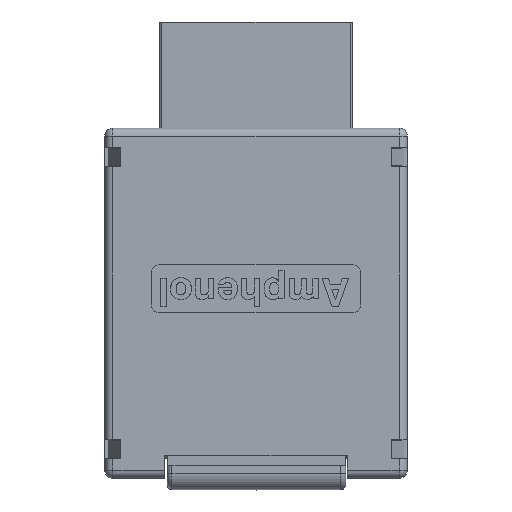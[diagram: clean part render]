
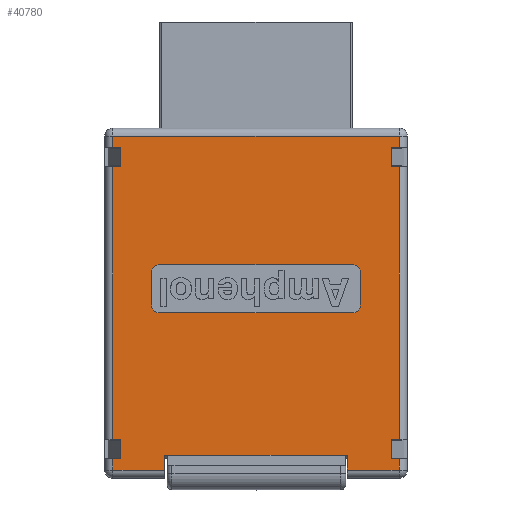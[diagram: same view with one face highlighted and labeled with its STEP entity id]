
A CAD part, top view. The second image highlights one B-rep face of the part: STEP entity #40780.
In plain terms, the highlighted planar face has unit normal (0, 0, 1) as drawn and (0, 0, -1) by its records, which use the part's own axes.
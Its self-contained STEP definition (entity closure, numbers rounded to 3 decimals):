
#35930=DIRECTION('',(-1.,0.,0.));
#35931=VECTOR('',#35930,0.93);
#35932=CARTESIAN_POINT('',(-10.59,5.685,-0.21));
#35933=LINE('',#35932,#35931);
#35959=DIRECTION('',(0.,-1.,0.));
#35960=VECTOR('',#35959,11.38);
#35961=CARTESIAN_POINT('',(-10.59,5.685,-0.21));
#35962=LINE('',#35961,#35960);
#35963=DIRECTION('',(1.,0.,0.));
#35964=VECTOR('',#35963,1.2);
#35965=CARTESIAN_POINT('',(-10.82,-8.4,-0.21));
#35966=LINE('',#35965,#35964);
#35967=DIRECTION('',(0.,-1.,0.));
#35968=VECTOR('',#35967,0.5);
#35969=CARTESIAN_POINT('',(-9.62,-8.4,-0.21));
#35970=LINE('',#35969,#35968);
#35971=DIRECTION('',(1.,0.,0.));
#35972=VECTOR('',#35971,1.2);
#35973=CARTESIAN_POINT('',(7.35,-8.4,-0.21));
#35974=LINE('',#35973,#35972);
#35975=DIRECTION('',(0.,-1.,0.));
#35976=VECTOR('',#35975,0.5);
#35977=CARTESIAN_POINT('',(8.55,-8.4,-0.21));
#35978=LINE('',#35977,#35976);
#35979=DIRECTION('',(-1.,0.,0.));
#35980=VECTOR('',#35979,1.2);
#35981=CARTESIAN_POINT('',(8.55,8.4,-0.21));
#35982=LINE('',#35981,#35980);
#35983=DIRECTION('',(0.,1.,0.));
#35984=VECTOR('',#35983,0.5);
#35985=CARTESIAN_POINT('',(7.35,8.4,-0.21));
#35986=LINE('',#35985,#35984);
#35987=DIRECTION('',(-1.,0.,0.));
#35988=VECTOR('',#35987,1.2);
#35989=CARTESIAN_POINT('',(-9.62,8.4,-0.21));
#35990=LINE('',#35989,#35988);
#35991=DIRECTION('',(0.,1.,0.));
#35992=VECTOR('',#35991,0.5);
#35993=CARTESIAN_POINT('',(-10.82,8.4,-0.21));
#35994=LINE('',#35993,#35992);
#35995=CARTESIAN_POINT('',(0.75,6.,-0.21));
#35996=DIRECTION('',(0.,0.,-1.));
#35997=DIRECTION('',(0.,1.,0.));
#35998=AXIS2_PLACEMENT_3D('',#35995,#35996,#35997);
#36000=CARTESIAN_POINT('',(0.75,-6.,-0.21));
#36001=DIRECTION('',(0.,0.,-1.));
#36002=DIRECTION('',(1.,0.,0.));
#36003=AXIS2_PLACEMENT_3D('',#36000,#36001,#36002);
#36005=CARTESIAN_POINT('',(-1.25,-6.,-0.21));
#36006=DIRECTION('',(0.,0.,-1.));
#36007=DIRECTION('',(0.,-1.,0.));
#36008=AXIS2_PLACEMENT_3D('',#36005,#36006,#36007);
#36010=CARTESIAN_POINT('',(-1.25,6.,-0.21));
#36011=DIRECTION('',(0.,0.,-1.));
#36012=DIRECTION('',(-1.,0.,0.));
#36013=AXIS2_PLACEMENT_3D('',#36010,#36011,#36012);
#36019=DIRECTION('',(0.,1.,0.));
#36020=VECTOR('',#36019,3.215);
#36021=CARTESIAN_POINT('',(-11.52,5.685,-0.21));
#36022=LINE('',#36021,#36020);
#36195=DIRECTION('',(0.,1.,0.));
#36196=VECTOR('',#36195,0.5);
#36197=CARTESIAN_POINT('',(-9.62,8.4,-0.21));
#36198=LINE('',#36197,#36196);
#36249=DIRECTION('',(1.,0.,0.));
#36250=VECTOR('',#36249,0.7);
#36251=CARTESIAN_POINT('',(-11.52,8.9,-0.21));
#36252=LINE('',#36251,#36250);
#36268=DIRECTION('',(1.,0.,0.));
#36269=VECTOR('',#36268,16.97);
#36270=CARTESIAN_POINT('',(-9.62,8.9,-0.21));
#36271=LINE('',#36270,#36269);
#36309=DIRECTION('',(0.,1.,0.));
#36310=VECTOR('',#36309,0.5);
#36311=CARTESIAN_POINT('',(8.55,8.4,-0.21));
#36312=LINE('',#36311,#36310);
#36322=DIRECTION('',(1.,0.,0.));
#36323=VECTOR('',#36322,0.7);
#36324=CARTESIAN_POINT('',(8.55,8.9,-0.21));
#36325=LINE('',#36324,#36323);
#36345=DIRECTION('',(0.,-1.,0.));
#36346=VECTOR('',#36345,17.8);
#36347=CARTESIAN_POINT('',(9.25,8.9,-0.21));
#36348=LINE('',#36347,#36346);
#36372=DIRECTION('',(-1.,0.,0.));
#36373=VECTOR('',#36372,0.7);
#36374=CARTESIAN_POINT('',(9.25,-8.9,-0.21));
#36375=LINE('',#36374,#36373);
#36465=DIRECTION('',(0.,1.,0.));
#36466=VECTOR('',#36465,3.205);
#36467=CARTESIAN_POINT('',(-11.52,-8.9,-0.21));
#36468=LINE('',#36467,#36466);
#36498=DIRECTION('',(1.,0.,0.));
#36499=VECTOR('',#36498,0.93);
#36500=CARTESIAN_POINT('',(-11.52,-5.695,-0.21));
#36501=LINE('',#36500,#36499);
#37025=DIRECTION('',(-1.,0.,0.));
#37026=VECTOR('',#37025,0.7);
#37027=CARTESIAN_POINT('',(-10.82,-8.9,-0.21));
#37028=LINE('',#37027,#37026);
#37041=DIRECTION('',(0.,-1.,0.));
#37042=VECTOR('',#37041,0.5);
#37043=CARTESIAN_POINT('',(-10.82,-8.4,-0.21));
#37044=LINE('',#37043,#37042);
#37295=DIRECTION('',(0.,-1.,0.));
#37296=VECTOR('',#37295,0.5);
#37297=CARTESIAN_POINT('',(7.35,-8.4,-0.21));
#37298=LINE('',#37297,#37296);
#37304=DIRECTION('',(-1.,0.,0.));
#37305=VECTOR('',#37304,16.97);
#37306=CARTESIAN_POINT('',(7.35,-8.9,-0.21));
#37307=LINE('',#37306,#37305);
#37453=DIRECTION('',(-1.,0.,0.));
#37454=VECTOR('',#37453,2.);
#37455=CARTESIAN_POINT('',(0.75,6.5,-0.21));
#37456=LINE('',#37455,#37454);
#37794=DIRECTION('',(0.,-1.,0.));
#37795=VECTOR('',#37794,12.);
#37796=CARTESIAN_POINT('',(-1.75,6.,-0.21));
#37797=LINE('',#37796,#37795);
#37806=DIRECTION('',(1.,0.,0.));
#37807=VECTOR('',#37806,2.);
#37808=CARTESIAN_POINT('',(-1.25,-6.5,-0.21));
#37809=LINE('',#37808,#37807);
#37818=DIRECTION('',(0.,1.,0.));
#37819=VECTOR('',#37818,12.);
#37820=CARTESIAN_POINT('',(1.25,-6.,-0.21));
#37821=LINE('',#37820,#37819);
#39530=CARTESIAN_POINT('',(-10.59,5.685,-0.21));
#39531=VERTEX_POINT('',#39530);
#39532=CARTESIAN_POINT('',(-10.59,-5.695,-0.21));
#39533=VERTEX_POINT('',#39532);
#39534=CARTESIAN_POINT('',(-11.52,5.685,-0.21));
#39535=VERTEX_POINT('',#39534);
#39538=CARTESIAN_POINT('',(-11.52,8.9,-0.21));
#39539=VERTEX_POINT('',#39538);
#39540=CARTESIAN_POINT('',(-11.52,-5.695,-0.21));
#39541=VERTEX_POINT('',#39540);
#39542=CARTESIAN_POINT('',(-11.52,-8.9,-0.21));
#39543=VERTEX_POINT('',#39542);
#39544=CARTESIAN_POINT('',(-10.82,-8.9,-0.21));
#39545=VERTEX_POINT('',#39544);
#39546=CARTESIAN_POINT('',(-10.82,-8.4,-0.21));
#39547=VERTEX_POINT('',#39546);
#39548=CARTESIAN_POINT('',(-9.62,-8.4,-0.21));
#39549=VERTEX_POINT('',#39548);
#39550=CARTESIAN_POINT('',(-9.62,-8.9,-0.21));
#39551=VERTEX_POINT('',#39550);
#39552=CARTESIAN_POINT('',(7.35,-8.9,-0.21));
#39553=VERTEX_POINT('',#39552);
#39554=CARTESIAN_POINT('',(7.35,-8.4,-0.21));
#39555=VERTEX_POINT('',#39554);
#39556=CARTESIAN_POINT('',(8.55,-8.4,-0.21));
#39557=VERTEX_POINT('',#39556);
#39558=CARTESIAN_POINT('',(8.55,-8.9,-0.21));
#39559=VERTEX_POINT('',#39558);
#39560=CARTESIAN_POINT('',(9.25,-8.9,-0.21));
#39561=VERTEX_POINT('',#39560);
#39562=CARTESIAN_POINT('',(9.25,8.9,-0.21));
#39563=VERTEX_POINT('',#39562);
#39564=CARTESIAN_POINT('',(8.55,8.9,-0.21));
#39565=VERTEX_POINT('',#39564);
#39566=CARTESIAN_POINT('',(8.55,8.4,-0.21));
#39567=VERTEX_POINT('',#39566);
#39568=CARTESIAN_POINT('',(7.35,8.4,-0.21));
#39569=VERTEX_POINT('',#39568);
#39570=CARTESIAN_POINT('',(7.35,8.9,-0.21));
#39571=VERTEX_POINT('',#39570);
#39572=CARTESIAN_POINT('',(-9.62,8.9,-0.21));
#39573=VERTEX_POINT('',#39572);
#39574=CARTESIAN_POINT('',(-9.62,8.4,-0.21));
#39575=VERTEX_POINT('',#39574);
#39576=CARTESIAN_POINT('',(-10.82,8.4,-0.21));
#39577=VERTEX_POINT('',#39576);
#39578=CARTESIAN_POINT('',(-10.82,8.9,-0.21));
#39579=VERTEX_POINT('',#39578);
#39580=CARTESIAN_POINT('',(0.75,6.5,-0.21));
#39581=CARTESIAN_POINT('',(-1.25,6.5,-0.21));
#39582=VERTEX_POINT('',#39580);
#39583=VERTEX_POINT('',#39581);
#39584=CARTESIAN_POINT('',(1.25,6.,-0.21));
#39585=VERTEX_POINT('',#39584);
#39586=CARTESIAN_POINT('',(1.25,-6.,-0.21));
#39587=VERTEX_POINT('',#39586);
#39588=CARTESIAN_POINT('',(0.75,-6.5,-0.21));
#39589=VERTEX_POINT('',#39588);
#39590=CARTESIAN_POINT('',(-1.25,-6.5,-0.21));
#39591=VERTEX_POINT('',#39590);
#39592=CARTESIAN_POINT('',(-1.75,-6.,-0.21));
#39593=VERTEX_POINT('',#39592);
#39594=CARTESIAN_POINT('',(-1.75,6.,-0.21));
#39595=VERTEX_POINT('',#39594);
#40709=CARTESIAN_POINT('',(0.,8.4,-0.21));
#40710=DIRECTION('',(0.,0.,-1.));
#40711=DIRECTION('',(0.,-1.,0.));
#40712=AXIS2_PLACEMENT_3D('',#40709,#40710,#40711);
#40713=PLANE('',#40712);
#40715=ORIENTED_EDGE('',*,*,#40714,.F.);
#40716=ORIENTED_EDGE('',*,*,#40696,.F.);
#40717=ORIENTED_EDGE('',*,*,#40685,.T.);
#40719=ORIENTED_EDGE('',*,*,#40718,.F.);
#40721=ORIENTED_EDGE('',*,*,#40720,.F.);
#40723=ORIENTED_EDGE('',*,*,#40722,.F.);
#40725=ORIENTED_EDGE('',*,*,#40724,.F.);
#40727=ORIENTED_EDGE('',*,*,#40726,.T.);
#40729=ORIENTED_EDGE('',*,*,#40728,.T.);
#40731=ORIENTED_EDGE('',*,*,#40730,.F.);
#40733=ORIENTED_EDGE('',*,*,#40732,.F.);
#40735=ORIENTED_EDGE('',*,*,#40734,.T.);
#40737=ORIENTED_EDGE('',*,*,#40736,.T.);
#40739=ORIENTED_EDGE('',*,*,#40738,.F.);
#40741=ORIENTED_EDGE('',*,*,#40740,.F.);
#40743=ORIENTED_EDGE('',*,*,#40742,.F.);
#40745=ORIENTED_EDGE('',*,*,#40744,.F.);
#40747=ORIENTED_EDGE('',*,*,#40746,.T.);
#40749=ORIENTED_EDGE('',*,*,#40748,.T.);
#40751=ORIENTED_EDGE('',*,*,#40750,.F.);
#40753=ORIENTED_EDGE('',*,*,#40752,.F.);
#40755=ORIENTED_EDGE('',*,*,#40754,.T.);
#40757=ORIENTED_EDGE('',*,*,#40756,.T.);
#40759=ORIENTED_EDGE('',*,*,#40758,.F.);
#40760=EDGE_LOOP('',(#40715,#40716,#40717,#40719,#40721,#40723,#40725,#40727,
#40729,#40731,#40733,#40735,#40737,#40739,#40741,#40743,#40745,#40747,#40749,
#40751,#40753,#40755,#40757,#40759));
#40761=FACE_OUTER_BOUND('',#40760,.F.);
#40763=ORIENTED_EDGE('',*,*,#40762,.F.);
#40765=ORIENTED_EDGE('',*,*,#40764,.T.);
#40767=ORIENTED_EDGE('',*,*,#40766,.F.);
#40769=ORIENTED_EDGE('',*,*,#40768,.T.);
#40771=ORIENTED_EDGE('',*,*,#40770,.F.);
#40773=ORIENTED_EDGE('',*,*,#40772,.T.);
#40775=ORIENTED_EDGE('',*,*,#40774,.F.);
#40777=ORIENTED_EDGE('',*,*,#40776,.T.);
#40778=EDGE_LOOP('',(#40763,#40765,#40767,#40769,#40771,#40773,#40775,#40777));
#40779=FACE_BOUND('',#40778,.F.);
#40780=ADVANCED_FACE('',(#40761,#40779),#40713,.T.);
#35999=CIRCLE('',#35998,0.5);
#36004=CIRCLE('',#36003,0.5);
#36009=CIRCLE('',#36008,0.5);
#36014=CIRCLE('',#36013,0.5);
#40685=EDGE_CURVE('',#39531,#39533,#35962,.T.);
#40696=EDGE_CURVE('',#39531,#39535,#35933,.T.);
#40714=EDGE_CURVE('',#39535,#39539,#36022,.T.);
#40718=EDGE_CURVE('',#39541,#39533,#36501,.T.);
#40720=EDGE_CURVE('',#39543,#39541,#36468,.T.);
#40722=EDGE_CURVE('',#39545,#39543,#37028,.T.);
#40724=EDGE_CURVE('',#39547,#39545,#37044,.T.);
#40726=EDGE_CURVE('',#39547,#39549,#35966,.T.);
#40728=EDGE_CURVE('',#39549,#39551,#35970,.T.);
#40730=EDGE_CURVE('',#39553,#39551,#37307,.T.);
#40732=EDGE_CURVE('',#39555,#39553,#37298,.T.);
#40734=EDGE_CURVE('',#39555,#39557,#35974,.T.);
#40736=EDGE_CURVE('',#39557,#39559,#35978,.T.);
#40738=EDGE_CURVE('',#39561,#39559,#36375,.T.);
#40740=EDGE_CURVE('',#39563,#39561,#36348,.T.);
#40742=EDGE_CURVE('',#39565,#39563,#36325,.T.);
#40744=EDGE_CURVE('',#39567,#39565,#36312,.T.);
#40746=EDGE_CURVE('',#39567,#39569,#35982,.T.);
#40748=EDGE_CURVE('',#39569,#39571,#35986,.T.);
#40750=EDGE_CURVE('',#39573,#39571,#36271,.T.);
#40752=EDGE_CURVE('',#39575,#39573,#36198,.T.);
#40754=EDGE_CURVE('',#39575,#39577,#35990,.T.);
#40756=EDGE_CURVE('',#39577,#39579,#35994,.T.);
#40758=EDGE_CURVE('',#39539,#39579,#36252,.T.);
#40762=EDGE_CURVE('',#39582,#39583,#37456,.T.);
#40764=EDGE_CURVE('',#39582,#39585,#35999,.T.);
#40766=EDGE_CURVE('',#39587,#39585,#37821,.T.);
#40768=EDGE_CURVE('',#39587,#39589,#36004,.T.);
#40770=EDGE_CURVE('',#39591,#39589,#37809,.T.);
#40772=EDGE_CURVE('',#39591,#39593,#36009,.T.);
#40774=EDGE_CURVE('',#39595,#39593,#37797,.T.);
#40776=EDGE_CURVE('',#39595,#39583,#36014,.T.);
